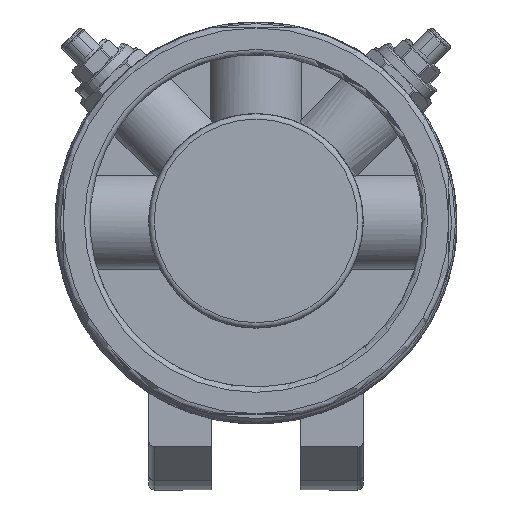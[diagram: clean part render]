
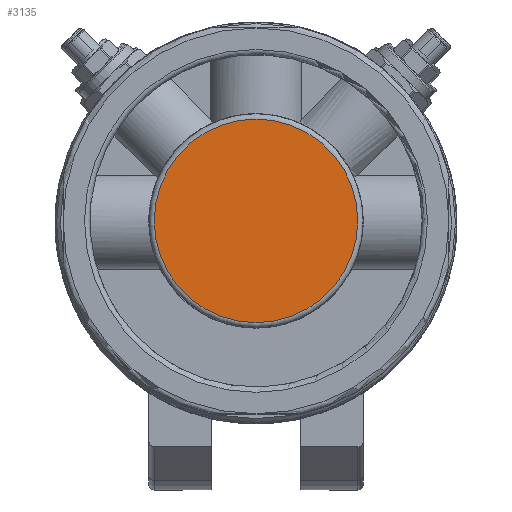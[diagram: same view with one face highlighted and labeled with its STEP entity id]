
A CAD part, top view. The second image highlights one B-rep face of the part: STEP entity #3135.
In plain terms, the highlighted planar face has unit normal (0, 0, 1).
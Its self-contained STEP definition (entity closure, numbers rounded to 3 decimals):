
#2824=CARTESIAN_POINT('',(19.0,0.,245.5));
#2825=VERTEX_POINT('',#2824);
#2826=CARTESIAN_POINT('',(0.,0.,245.5));
#2827=DIRECTION('',(0.0,0.0,-1.0));
#2828=DIRECTION('',(-1.0,0.0,0.0));
#2829=AXIS2_PLACEMENT_3D('',#2826,#2827,#2828);
#2830=CIRCLE('',#2829,19.0);
#2831=EDGE_CURVE('',#2825,#2825,#2830,.T.);
#3127=CARTESIAN_POINT('',(0.,0.,245.5));
#3128=DIRECTION('',(0.0,0.0,-1.0));
#3129=DIRECTION('',(-1.0,0.0,0.0));
#3130=AXIS2_PLACEMENT_3D('',#3127,#3128,#3129);
#3131=PLANE('',#3130);
#3132=ORIENTED_EDGE('',*,*,#2831,.F.);
#3133=EDGE_LOOP('',(#3132));
#3134=FACE_OUTER_BOUND('',#3133,.T.);
#3135=ADVANCED_FACE('',(#3134),#3131,.F.);
